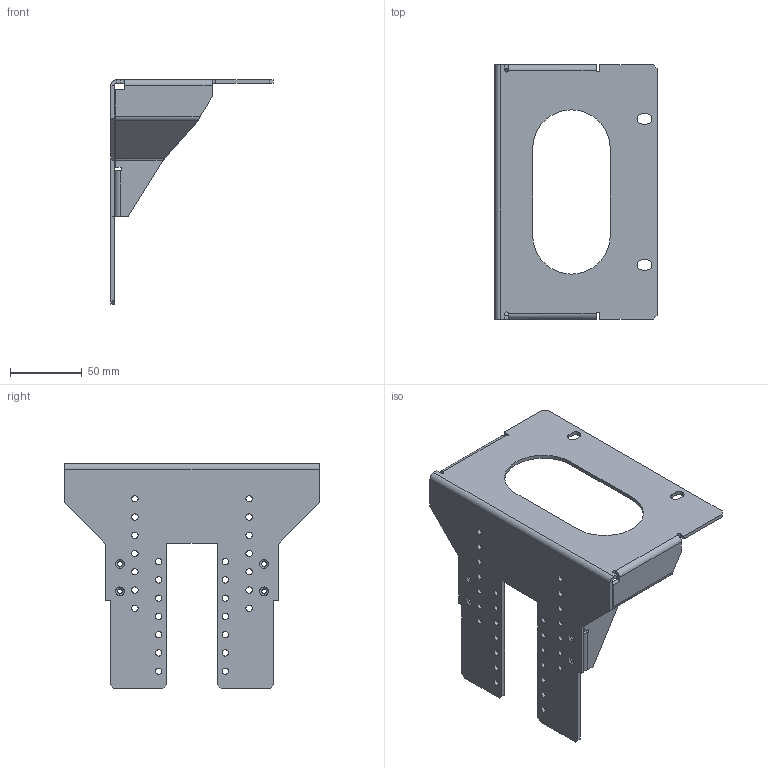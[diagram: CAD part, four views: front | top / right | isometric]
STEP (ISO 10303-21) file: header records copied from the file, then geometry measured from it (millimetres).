
FILE_DESCRIPTION((''),'2;1');
FILE_NAME('CU_RACKMOUNT_4-6-SLOT_CHAS','2011-07-15T',('talbott'),(''),'PRO/ENGINEER BY PARAMETRIC TECHNOLOGY CORPORATION, 2010230','PRO/ENGINEER BY PARAMETRIC TECHNOLOGY CORPORATION, 2010230','');
FILE_SCHEMA(('CONFIG_CONTROL_DESIGN'));
Length unit declared in the file: inch
Products named in the file (1): CU_RACKMOUNT_4-6-SLOT_CHAS
Bounding box: 112.88 x 177.04 x 156.21 mm (x, y, z)
Volume: 99932.4 mm3; surface area: 84583.9 mm2
Topology: 1 solids, 1 shells, 214 faces, 556 edges, 344 vertices
Faces by surface type: cylinder 102, plane 98, cone 8, bspline 6
Entity records: 6846 total; most frequent: CARTESIAN_POINT 1302, DIRECTION 1164, ORIENTED_EDGE 1112, EDGE_CURVE 556, AXIS2_PLACEMENT_3D 412, VERTEX_POINT 344, VECTOR 340, LINE 340
